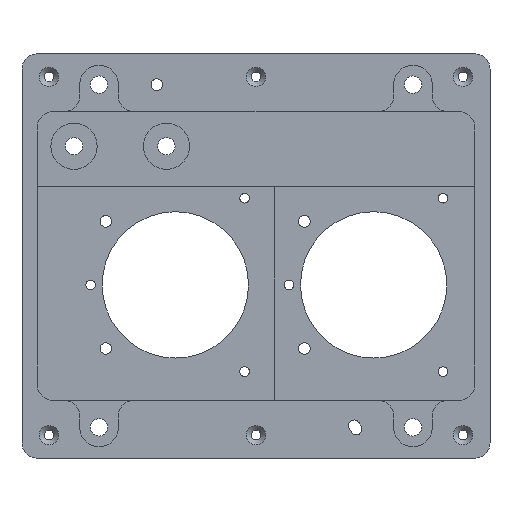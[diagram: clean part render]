
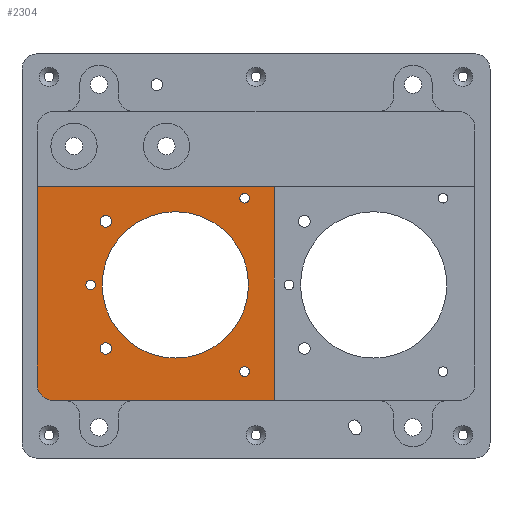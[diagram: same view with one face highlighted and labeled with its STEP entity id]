
A CAD part, front view. The second image highlights one B-rep face of the part: STEP entity #2304.
In plain terms, the highlighted planar face has unit normal (0, -1, 0).
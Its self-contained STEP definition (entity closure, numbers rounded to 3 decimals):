
#26=LINE('',#3405,#187);
#117=LINE('',#3752,#278);
#119=LINE('',#3759,#280);
#120=LINE('',#3760,#281);
#187=VECTOR('',#2677,61.5);
#278=VECTOR('',#3036,51.5);
#280=VECTOR('',#3044,57.5);
#281=VECTOR('',#3045,55.5);
#367=PLANE('',#2514);
#437=FACE_BOUND('',#723,.T.);
#438=FACE_BOUND('',#724,.T.);
#439=FACE_BOUND('',#725,.T.);
#440=FACE_BOUND('',#726,.T.);
#441=FACE_BOUND('',#727,.T.);
#442=FACE_BOUND('',#728,.T.);
#548=FACE_OUTER_BOUND('',#722,.T.);
#722=EDGE_LOOP('',(#1854,#1855,#1856,#1857,#1858));
#723=EDGE_LOOP('',(#1859));
#724=EDGE_LOOP('',(#1860));
#725=EDGE_LOOP('',(#1861));
#726=EDGE_LOOP('',(#1862));
#727=EDGE_LOOP('',(#1863));
#728=EDGE_LOOP('',(#1864));
#910=CIRCLE('',#2513,4.);
#911=CIRCLE('',#2515,19.);
#912=CIRCLE('',#2516,1.5);
#913=CIRCLE('',#2517,1.5);
#914=CIRCLE('',#2518,1.25);
#915=CIRCLE('',#2519,1.25);
#916=CIRCLE('',#2520,1.25);
#995=VERTEX_POINT('',#3402);
#996=VERTEX_POINT('',#3404);
#1118=VERTEX_POINT('',#3750);
#1119=VERTEX_POINT('',#3754);
#1120=VERTEX_POINT('',#3758);
#1121=VERTEX_POINT('',#3761);
#1122=VERTEX_POINT('',#3763);
#1123=VERTEX_POINT('',#3765);
#1124=VERTEX_POINT('',#3767);
#1125=VERTEX_POINT('',#3769);
#1126=VERTEX_POINT('',#3771);
#1228=EDGE_CURVE('',#996,#995,#26,.T.);
#1393=EDGE_CURVE('',#995,#1118,#117,.T.);
#1394=EDGE_CURVE('',#1119,#1118,#910,.T.);
#1396=EDGE_CURVE('',#1119,#1120,#119,.T.);
#1397=EDGE_CURVE('',#1120,#996,#120,.T.);
#1398=EDGE_CURVE('',#1121,#1121,#911,.T.);
#1399=EDGE_CURVE('',#1122,#1122,#912,.T.);
#1400=EDGE_CURVE('',#1123,#1123,#913,.T.);
#1401=EDGE_CURVE('',#1124,#1124,#914,.T.);
#1402=EDGE_CURVE('',#1125,#1125,#915,.T.);
#1403=EDGE_CURVE('',#1126,#1126,#916,.T.);
#1854=ORIENTED_EDGE('',*,*,#1394,.F.);
#1855=ORIENTED_EDGE('',*,*,#1396,.T.);
#1856=ORIENTED_EDGE('',*,*,#1397,.T.);
#1857=ORIENTED_EDGE('',*,*,#1228,.T.);
#1858=ORIENTED_EDGE('',*,*,#1393,.T.);
#1859=ORIENTED_EDGE('',*,*,#1398,.T.);
#1860=ORIENTED_EDGE('',*,*,#1399,.T.);
#1861=ORIENTED_EDGE('',*,*,#1400,.T.);
#1862=ORIENTED_EDGE('',*,*,#1401,.T.);
#1863=ORIENTED_EDGE('',*,*,#1402,.T.);
#1864=ORIENTED_EDGE('',*,*,#1403,.T.);
#2304=ADVANCED_FACE('',(#548,#437,#438,#439,#440,#441,#442),#367,.T.);
#2513=AXIS2_PLACEMENT_3D('',#3755,#3039,#3040);
#2514=AXIS2_PLACEMENT_3D('',#3757,#3042,#3043);
#2515=AXIS2_PLACEMENT_3D('',#3762,#3046,#3047);
#2516=AXIS2_PLACEMENT_3D('',#3764,#3048,#3049);
#2517=AXIS2_PLACEMENT_3D('',#3766,#3050,#3051);
#2518=AXIS2_PLACEMENT_3D('',#3768,#3052,#3053);
#2519=AXIS2_PLACEMENT_3D('',#3770,#3054,#3055);
#2520=AXIS2_PLACEMENT_3D('',#3772,#3056,#3057);
#2677=DIRECTION('',(-1.,0.,0.));
#3036=DIRECTION('',(0.,0.,-1.));
#3039=DIRECTION('center_axis',(0.,1.,0.));
#3040=DIRECTION('ref_axis',(-0.707,0.,-0.707));
#3042=DIRECTION('center_axis',(0.,-1.,0.));
#3043=DIRECTION('ref_axis',(0.,0.,-1.));
#3044=DIRECTION('',(1.,0.,0.));
#3045=DIRECTION('',(0.,0.,1.));
#3046=DIRECTION('center_axis',(0.,1.,0.));
#3047=DIRECTION('ref_axis',(-1.,0.,0.));
#3048=DIRECTION('center_axis',(0.,1.,0.));
#3049=DIRECTION('ref_axis',(1.,0.,0.));
#3050=DIRECTION('center_axis',(0.,1.,0.));
#3051=DIRECTION('ref_axis',(1.,0.,0.));
#3052=DIRECTION('center_axis',(0.,1.,0.));
#3053=DIRECTION('ref_axis',(1.,0.,0.));
#3054=DIRECTION('center_axis',(0.,1.,0.));
#3055=DIRECTION('ref_axis',(1.,0.,0.));
#3056=DIRECTION('center_axis',(0.,1.,0.));
#3057=DIRECTION('ref_axis',(1.,0.,0.));
#3402=CARTESIAN_POINT('',(-56.75,-3.5,18.));
#3404=CARTESIAN_POINT('',(4.75,-3.5,18.));
#3405=CARTESIAN_POINT('',(34.932,-3.5,18.));
#3750=CARTESIAN_POINT('',(-56.75,-3.5,-33.5));
#3752=CARTESIAN_POINT('',(-56.75,-3.5,-37.5));
#3754=CARTESIAN_POINT('',(-52.75,-3.5,-37.5));
#3755=CARTESIAN_POINT('Origin',(-52.75,-3.5,-33.5));
#3757=CARTESIAN_POINT('Origin',(13.115,-3.5,13.115));
#3758=CARTESIAN_POINT('',(4.75,-3.5,-37.5));
#3759=CARTESIAN_POINT('',(56.75,-3.5,-37.5));
#3760=CARTESIAN_POINT('',(4.75,-3.5,25.307));
#3761=CARTESIAN_POINT('',(-1.95,-3.5,-7.5));
#3762=CARTESIAN_POINT('Origin',(-20.95,-3.5,-7.5));
#3763=CARTESIAN_POINT('',(-37.45,-3.5,-24.));
#3764=CARTESIAN_POINT('Origin',(-38.95,-3.5,-24.));
#3765=CARTESIAN_POINT('',(-37.45,-3.5,9.));
#3766=CARTESIAN_POINT('Origin',(-38.95,-3.5,9.));
#3767=CARTESIAN_POINT('',(-44.2,-3.5,-7.5));
#3768=CARTESIAN_POINT('Origin',(-42.95,-3.5,-7.5));
#3769=CARTESIAN_POINT('',(-4.2,-3.5,15.));
#3770=CARTESIAN_POINT('Origin',(-2.95,-3.5,15.));
#3771=CARTESIAN_POINT('',(-4.2,-3.5,-30.));
#3772=CARTESIAN_POINT('Origin',(-2.95,-3.5,-30.));
